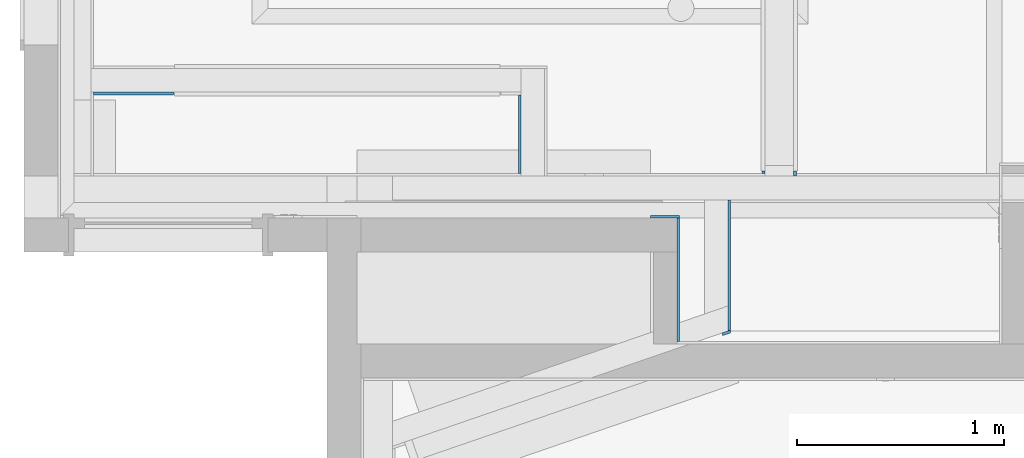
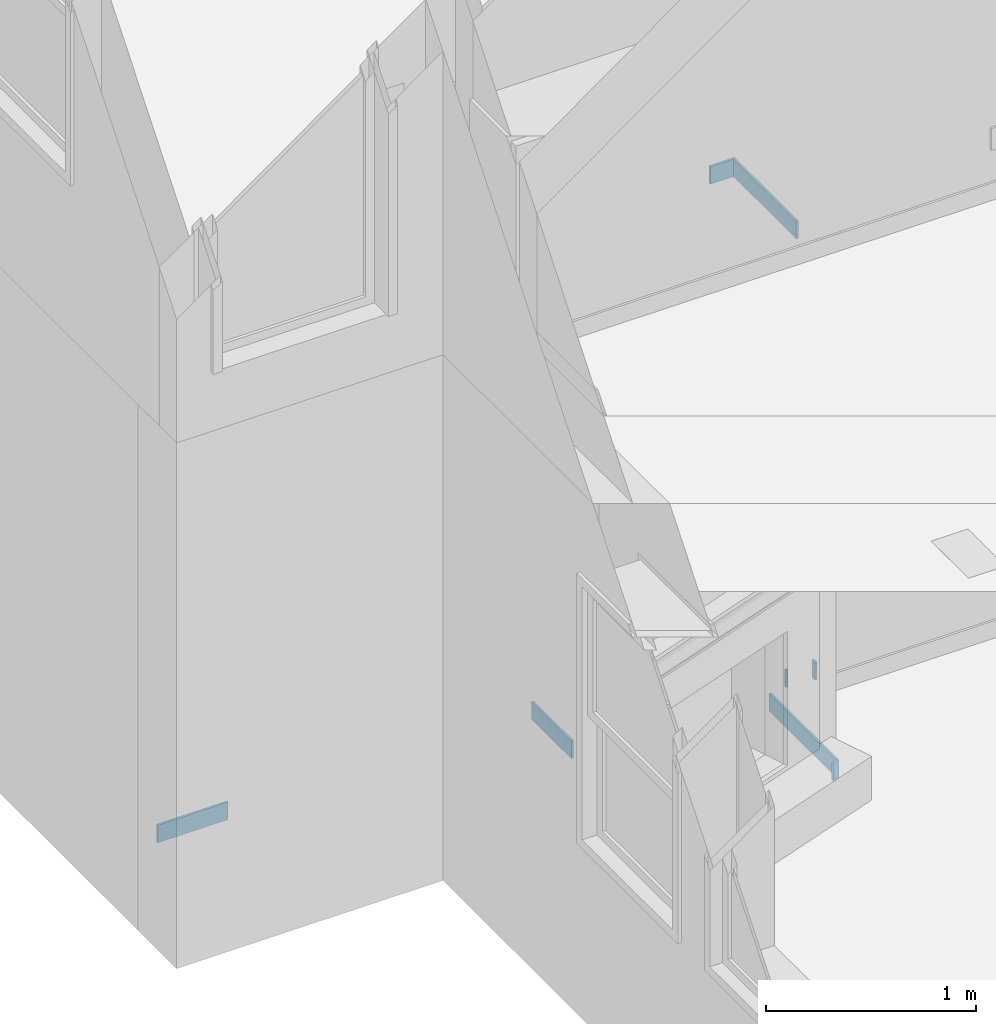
# One storey, part 19 of 60: 8 walls.
"""IFC2X3 building model written with IfcOpenShell, lengths in feet."""

from ifc_helpers import new_model, entity, si_unit, converted_unit, direction, frame, frame_2d, origin, place, context, subcontext, project, spatial, polyline, rectangle, outline, extrude, clip, bounded_halfspace, material, layer, layer_set, layer_usage, type_object, element, save


model = new_model("IFC2X3")

# Units and contexts
model_context = context("Model", 3, precision=0.0001, world=origin(), true_north=direction((6.123031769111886e-17, 1.0)))
plan_context = context("Plan", 3, precision=0.0001, world=origin(), true_north=direction((6.123031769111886e-17, 1.0)))
body_context = subcontext(model_context, "Body", "Model", "MODEL_VIEW")
ifc_project = project(units=[converted_unit("LENGTHUNIT", "FOOT", entity("IfcLengthMeasure", 0.3048), si_unit("LENGTHUNIT", "METRE"), dimensions=[1, 0, 0, 0, 0, 0, 0]), converted_unit("AREAUNIT", "SQUARE FOOT", entity("IfcAreaMeasure", 0.09290304), si_unit("AREAUNIT", "SQUARE_METRE"), dimensions=[2, 0, 0, 0, 0, 0, 0]), converted_unit("PLANEANGLEUNIT", "DEGREE", entity("IfcPlaneAngleMeasure", 0.017453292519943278), si_unit("PLANEANGLEUNIT", "RADIAN"), dimensions=[0, 0, 0, 0, 0, 0, 0])], contexts=[model_context, plan_context])

# Site, building, storey
site_placement = place(None, origin())
site = spatial("IfcSite", under=ifc_project, at=site_placement, Name="Default", CompositionType="ELEMENT")
building_placement = place(site_placement, origin())
building = spatial("IfcBuilding", under=site, at=building_placement, CompositionType="ELEMENT")
storey_placement = place(building_placement, origin())
storey = spatial("IfcBuildingStorey", under=building, at=storey_placement, Name="First floor", CompositionType="ELEMENT", Elevation=0.0)

# Walls
ifc_material = material(Name="Default New Material")
ifc_layer = layer(ifc_material, 0.041666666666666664)
ifc_layer_set = layer_set([ifc_layer], Name="Basic Wall:Wall Border_T1")
ifc_layer_usage_1 = layer_usage(ifc_layer_set, "AXIS2", "POSITIVE", -0.020833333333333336)
wall_type = type_object("IfcWallType", Name="Basic Wall:Wall Border_T1", PredefinedType="STANDARD", material=ifc_layer_set)
wall_1_placement = place(storey_placement, frame((-9.604166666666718, 32.24999999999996, 0.0), z_axis=(0.0, 0.0, 1.0), x_axis=(0.0, 1.0, 0.0)))
element("IfcWallStandardCase", 1, at=wall_1_placement, inside=storey, type_object=wall_type, material=ifc_layer_usage_1, Name="Basic Wall:Wall Border_T1", ObjectType="Basic Wall:Wall Border_T1", context=body_context, shape_type="SweptSolid", body=[
    extrude(rectangle(XDim=0.0833333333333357, YDim=0.04166666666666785, at=frame_2d((0.04166666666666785, 0.0), x_axis=(-1.0, 0.0))), origin(), (0.0, 0.0, 1.0), 0.3333333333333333),
])
ifc_layer_usage_2 = layer_usage(ifc_layer_set, "AXIS2", "NEGATIVE", 0.020833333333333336)
wall_2_placement = place(storey_placement, frame((-10.645833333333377, 31.874999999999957, 0.0), z_axis=(0.0, 0.0, 1.0), x_axis=(0.0, -1.0, 0.0)))
element("IfcWallStandardCase", 2, at=wall_2_placement, inside=storey, type_object=wall_type, material=ifc_layer_usage_2, Name="Basic Wall:Wall Border_T1", ObjectType="Basic Wall:Wall Border_T1", context=body_context, shape_type="SweptSolid", body=[
    extrude(outline(polyline([(2.083333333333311, -0.02083333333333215), (2.069010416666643, 0.0208333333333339), (0.041666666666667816, 0.020833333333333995), (0.0, 0.020833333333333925), (0.0, -0.02083333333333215), (2.083333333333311, -0.02083333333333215)])), origin(), (0.0, 0.0, 1.0), 0.3333333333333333),
])
ifc_layer_usage_3 = layer_usage(ifc_layer_set, "AXIS2", "NEGATIVE", 0.020833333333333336)
wall_3_placement = place(storey_placement, frame((-10.618227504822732, 29.78628777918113, 0.0), z_axis=(0.0, 0.0, 1.0), x_axis=(-0.945686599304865, -0.3250797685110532, 0.0)))
element("IfcWallStandardCase", 3, at=wall_3_placement, inside=storey, type_object=wall_type, material=ifc_layer_usage_3, Name="Basic Wall:Wall Border_T1", ObjectType="Basic Wall:Wall Border_T1", context=body_context, shape_type="SweptSolid", body=[
    extrude(outline(polyline([(0.1481854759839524, -0.0208333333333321), (0.148185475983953, 0.02083333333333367), (0.01432291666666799, 0.02083333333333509), (0.0, -0.020833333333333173), (0.044059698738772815, -0.020833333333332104), (0.1481854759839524, -0.0208333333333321)])), origin(), (0.0, 0.0, 1.0), 0.3333333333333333),
])
ifc_layer_usage_4 = layer_usage(ifc_layer_set, "AXIS2", "NEGATIVE", 0.020833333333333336)
wall_4_placement = place(storey_placement, frame((-13.97916666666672, 32.29166666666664, 0.0), z_axis=(0.0, 0.0, 1.0), x_axis=(0.0, 1.0, 0.0)))
element("IfcWallStandardCase", 4, at=wall_4_placement, inside=storey, type_object=wall_type, material=ifc_layer_usage_4, Name="Basic Wall:Wall Border_T1", ObjectType="Basic Wall:Wall Border_T1", context=body_context, shape_type="Clipping", body=[
    clip(clip(extrude(rectangle(XDim=1.2500000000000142, YDim=0.04166666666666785, at=frame_2d((0.6250000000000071, -5.551115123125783e-17), x_axis=(-1.0, 0.0))), origin(), (0.0, 0.0, 1.0), 0.33333333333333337), bounded_halfspace(frame((1.2500000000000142, -0.02083333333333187, 0.33333333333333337), z_axis=(-1.0, 0.0, 0.0), x_axis=(0.0, -1.0, 0.0)), True, frame((1.2500000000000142, -0.02083333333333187, 0.33333333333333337), z_axis=(-1.0, 0.0, 0.0), x_axis=(0.0, -1.0, 0.0)), polyline([(0.0, 0.0), (-0.041666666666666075, 0.0), (-0.041666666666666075, -0.33333333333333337), (0.0, -0.33333333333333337), (0.0, 0.0)]))), bounded_halfspace(frame((0.0, -0.02083333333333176, 0.0), z_axis=(1.0, 0.0, 0.0), x_axis=(0.0, 1.0, 0.0)), True, frame((0.0, -0.02083333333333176, 0.0), z_axis=(1.0, 0.0, 0.0), x_axis=(0.0, 1.0, 0.0)), polyline([(0.0, 0.0), (0.041666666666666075, 0.0), (0.041666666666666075, 0.3333333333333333), (0.0, 0.3333333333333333), (0.0, 0.0)]))),
])
ifc_layer_usage_5 = layer_usage(ifc_layer_set, "AXIS2", "NEGATIVE", 0.020833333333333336)
wall_5_placement = place(storey_placement, frame((-19.47916666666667, 33.562499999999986, 0.0), z_axis=(0.0, 0.0, 1.0), x_axis=(-1.0, 0.0, 0.0)))
element("IfcWallStandardCase", 5, at=wall_5_placement, inside=storey, type_object=wall_type, material=ifc_layer_usage_5, Name="Basic Wall:Wall Border_T1", ObjectType="Basic Wall:Wall Border_T1", context=body_context, shape_type="SweptSolid", body=[
    extrude(rectangle(XDim=1.2708333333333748, YDim=0.041666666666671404, at=frame_2d((0.6354166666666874, 0.0), x_axis=(-1.0, 0.0))), origin(), (0.0, 0.0, 1.0), 0.3333333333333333),
])
ifc_layer_usage_6 = layer_usage(ifc_layer_set, "AXIS2", "POSITIVE", -0.020833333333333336)
wall_6_placement = place(storey_placement, frame((-10.104166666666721, 32.33333333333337, 0.0), z_axis=(0.0, 0.0, 1.0), x_axis=(0.0, -1.0, 0.0)))
element("IfcWallStandardCase", 6, at=wall_6_placement, inside=storey, type_object=wall_type, material=ifc_layer_usage_6, Name="Basic Wall:Wall Border_T1", ObjectType="Basic Wall:Wall Border_T1", context=body_context, shape_type="Clipping", body=[
    clip(extrude(rectangle(XDim=0.04166666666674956, YDim=0.04166666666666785, at=frame_2d((0.02083333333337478, 0.0), x_axis=(-1.0, 0.0))), origin(), (0.0, 0.0, 1.0), 0.3333333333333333), bounded_halfspace(frame((0.04166666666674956, -0.02083333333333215, 0.3333333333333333), z_axis=(-1.0, 0.0, 0.0), x_axis=(0.0, -1.0, 0.0)), True, frame((0.04166666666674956, -0.02083333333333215, 0.3333333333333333), z_axis=(-1.0, 0.0, 0.0), x_axis=(0.0, -1.0, 0.0)), polyline([(0.0, 0.0), (-0.041666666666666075, 0.0), (-0.041666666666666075, -0.3333333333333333), (0.0, -0.3333333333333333), (0.0, 0.0)]))),
])
ifc_layer_usage_7 = layer_usage(ifc_layer_set, "AXIS2", "NEGATIVE", 0.020833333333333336)
wall_7_placement = place(storey_placement, frame((-11.458333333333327, 29.624999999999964, 10.666666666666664), z_axis=(0.0, 0.0, 1.0), x_axis=(0.0, 1.0, 0.0)))
element("IfcWallStandardCase", 7, at=wall_7_placement, inside=storey, type_object=wall_type, material=ifc_layer_usage_7, Name="Basic Wall:Wall Border_T1", ObjectType="Basic Wall:Wall Border_T1", context=body_context, shape_type="SweptSolid", body=[
    extrude(rectangle(XDim=1.95833333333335, YDim=0.04166666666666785, at=frame_2d((0.979166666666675, 2.7755575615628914e-17), x_axis=(-1.0, 0.0))), origin(), (0.0, 0.0, 1.0), 0.3333333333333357),
])
ifc_layer_usage_8 = layer_usage(ifc_layer_set, "AXIS2", "NEGATIVE", 0.020833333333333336)
wall_8_placement = place(storey_placement, frame((-11.4375, 31.604166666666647, 10.666666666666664), z_axis=(0.0, 0.0, 1.0), x_axis=(-1.0, 0.0, 0.0)))
element("IfcWallStandardCase", 8, at=wall_8_placement, inside=storey, type_object=wall_type, material=ifc_layer_usage_8, Name="Basic Wall:Wall Border_T1", ObjectType="Basic Wall:Wall Border_T1", context=body_context, shape_type="SweptSolid", body=[
    extrude(rectangle(XDim=0.45832225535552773, YDim=0.0416666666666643, at=frame_2d((0.22916112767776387, 0.0), x_axis=(-1.0, 0.0))), origin(), (0.0, 0.0, 1.0), 0.3333333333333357),
])

save(model, "model.ifc")
